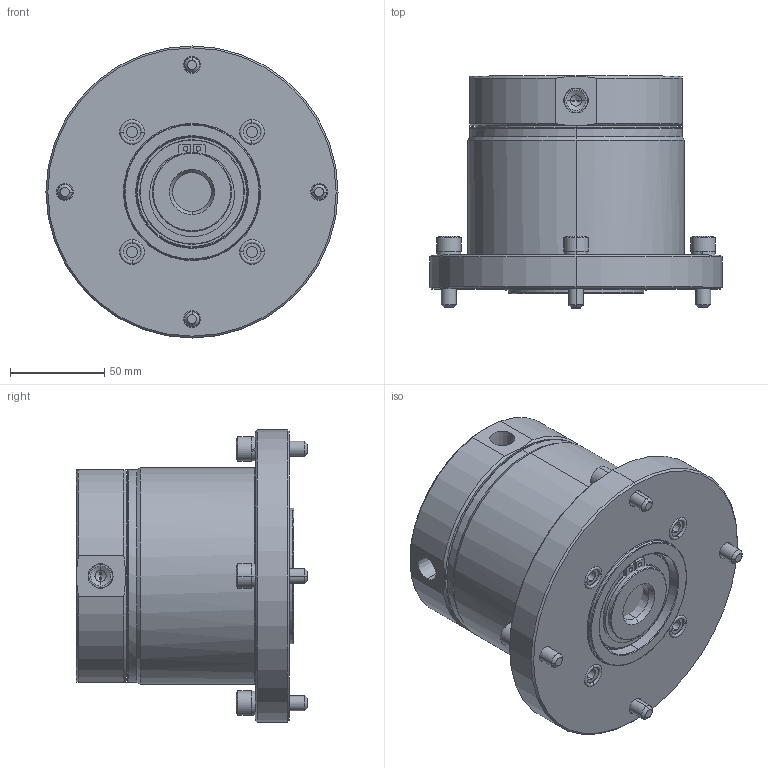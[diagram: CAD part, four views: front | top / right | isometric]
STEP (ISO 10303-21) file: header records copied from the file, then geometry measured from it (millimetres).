
FILE_DESCRIPTION((' '),'2;1');
FILE_NAME( 'TMB04-S-G-S.x_t.stp', '2024-09-03T08:15:24', (' '), ('--- Datakit www.datakit.com---'), ' Datakit CrossCadWare V2024.1 Dec 21 2023', 'Mastercam 2025', ' ');
FILE_SCHEMA(('AUTOMOTIVE_DESIGN { 1 0 10303 214 1 1 1 1 }'));
Length unit declared in the file: millimetre
Products named in the file (1): TMB04-S-G-S
Bounding box: 155 x 123 x 155 mm (x, y, z)
Volume: 1434762.8 mm3; surface area: 140509.6 mm2
Topology: 16 solids, 16 shells, 388 faces, 823 edges, 475 vertices
Faces by surface type: cylinder 130, plane 118, cone 110, torus 30
Entity records: 10859 total; most frequent: DIRECTION 2010, CARTESIAN_POINT 1963, ORIENTED_EDGE 1598, AXIS2_PLACEMENT_3D 858, EDGE_CURVE 799, VERTEX_POINT 475, CIRCLE 453, EDGE_LOOP 444
